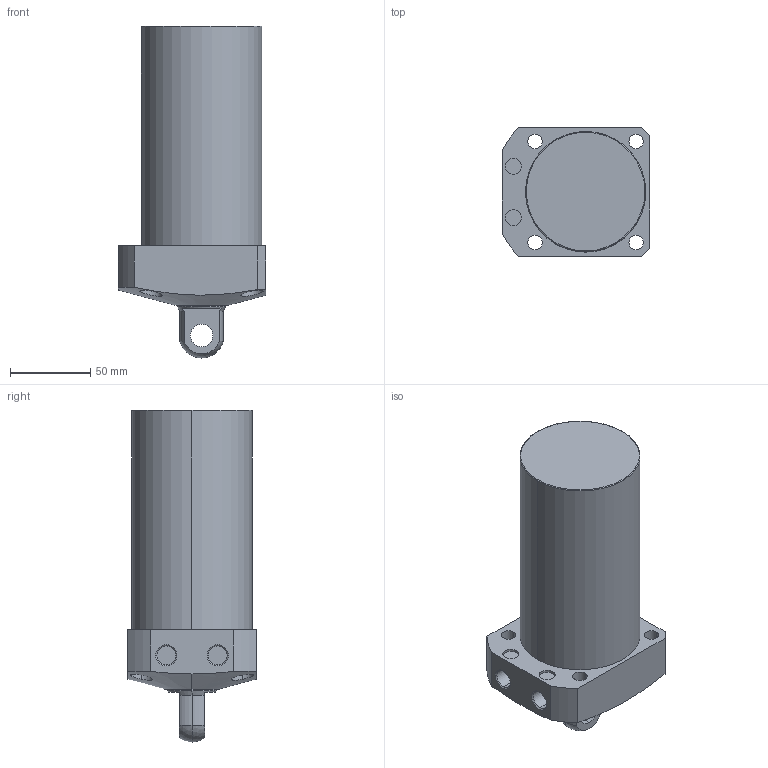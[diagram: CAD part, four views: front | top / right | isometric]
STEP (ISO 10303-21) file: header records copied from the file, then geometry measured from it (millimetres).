
FILE_DESCRIPTION (( 'STEP AP203' ), '1' );
FILE_NAME ('CLL-075CP-100.STEP', '2019-12-25T07:32:44', ( '' ), ( '' ), 'SwSTEP 2.0', 'SolidWorks 2015', '' );
FILE_SCHEMA (( 'CONFIG_CONTROL_DESIGN' ));
Length unit declared in the file: millimetre
Products named in the file (1): CLL-075CP-100
Bounding box: 92 x 80 x 207 mm (x, y, z)
Volume: 832689.3 mm3; surface area: 64183.5 mm2
Topology: 1 solids, 1 shells, 68 faces, 159 edges, 103 vertices
Faces by surface type: cylinder 35, plane 21, cone 8, sphere 2, torus 2
Entity records: 2459 total; most frequent: CARTESIAN_POINT 762, DIRECTION 357, ORIENTED_EDGE 318, EDGE_CURVE 159, AXIS2_PLACEMENT_3D 149, VERTEX_POINT 103, EDGE_LOOP 88, CIRCLE 80
